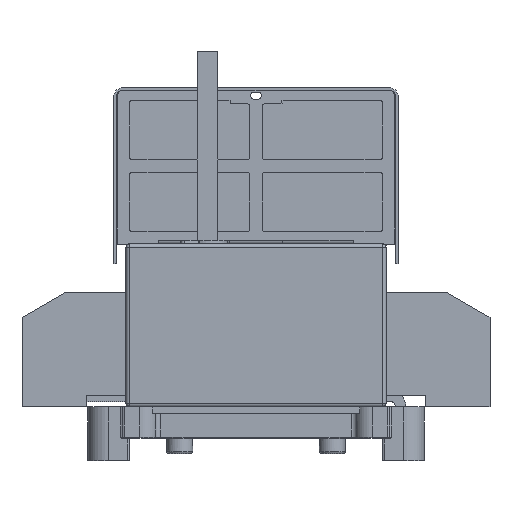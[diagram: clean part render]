
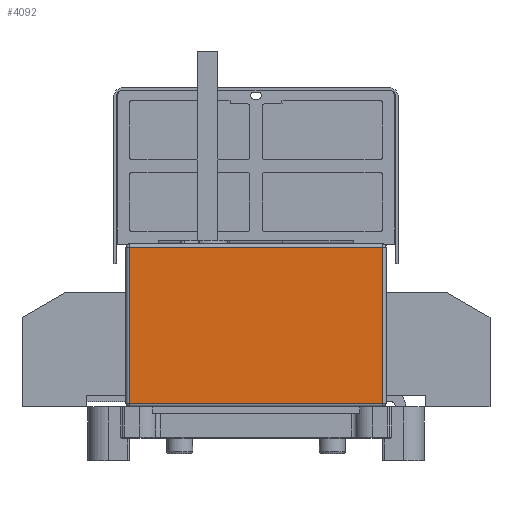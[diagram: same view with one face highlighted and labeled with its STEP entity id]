
A CAD part, left-side view. The second image highlights one B-rep face of the part: STEP entity #4092.
In plain terms, the highlighted planar face has unit normal (-1, 0, 0).
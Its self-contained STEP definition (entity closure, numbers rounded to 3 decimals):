
#4092=ADVANCED_FACE('',(#6694),#5162,.F.);
#5162=PLANE('',#34361);
#6694=FACE_OUTER_BOUND('',#8649,.T.);
#8649=EDGE_LOOP('',(#16644,#16645,#16646,#16647));
#16644=ORIENTED_EDGE('',*,*,#25133,.T.);
#16645=ORIENTED_EDGE('',*,*,#25115,.T.);
#16646=ORIENTED_EDGE('',*,*,#25126,.T.);
#16647=ORIENTED_EDGE('',*,*,#25104,.T.);
#20737=VERTEX_POINT('',#55283);
#20741=VERTEX_POINT('',#55294);
#20746=VERTEX_POINT('',#55311);
#20747=VERTEX_POINT('',#55315);
#25104=EDGE_CURVE('',#20741,#20737,#28338,.T.);
#25115=EDGE_CURVE('',#20747,#20746,#28343,.T.);
#25126=EDGE_CURVE('',#20746,#20741,#28346,.T.);
#25133=EDGE_CURVE('',#20737,#20747,#28353,.T.);
#28338=LINE('',#55297,#31514);
#28343=LINE('',#55318,#31519);
#28346=LINE('',#55341,#31522);
#28353=LINE('',#55351,#31529);
#31514=VECTOR('',#42879,1.);
#31519=VECTOR('',#42904,1.);
#31522=VECTOR('',#42933,1.);
#31529=VECTOR('',#42946,1.);
#34361=AXIS2_PLACEMENT_3D('',#55354,#42951,#42952);
#42879=DIRECTION('',(0.,1.,0.));
#42904=DIRECTION('',(0.,-1.,0.));
#42933=DIRECTION('',(0.,0.,1.));
#42946=DIRECTION('',(0.,0.,-1.));
#42951=DIRECTION('',(1.,0.,0.));
#42952=DIRECTION('',(0.,1.,0.));
#55283=CARTESIAN_POINT('',(-150.,73.,92.));
#55294=CARTESIAN_POINT('',(-150.,-73.,92.));
#55297=CARTESIAN_POINT('',(-150.,73.,92.));
#55311=CARTESIAN_POINT('',(-150.,-73.,2.));
#55315=CARTESIAN_POINT('',(-150.,73.,2.));
#55318=CARTESIAN_POINT('',(-150.,75.,2.));
#55341=CARTESIAN_POINT('',(-150.,-73.,94.));
#55351=CARTESIAN_POINT('',(-150.,73.,94.));
#55354=CARTESIAN_POINT('',(-150.,75.,94.));
